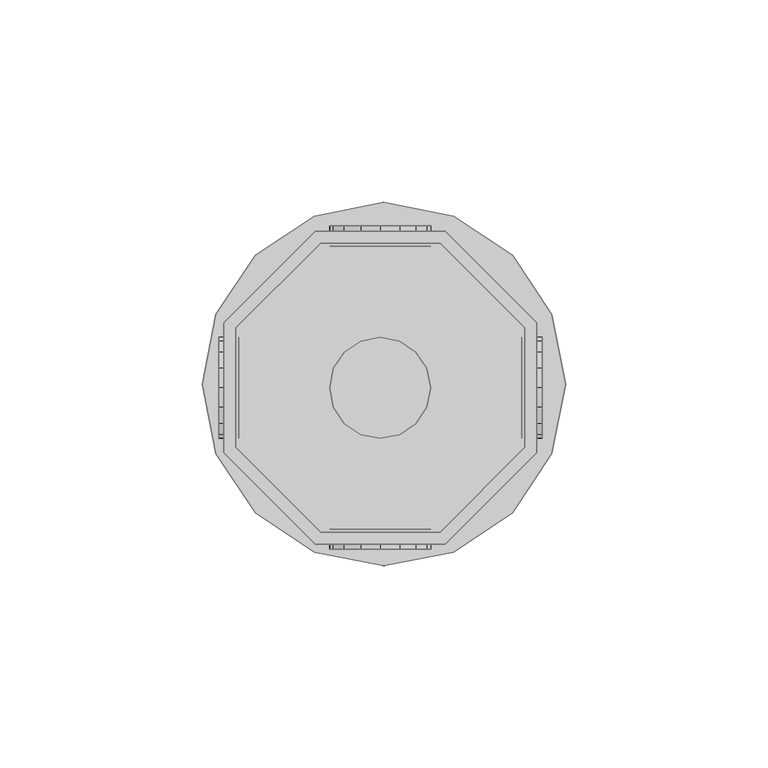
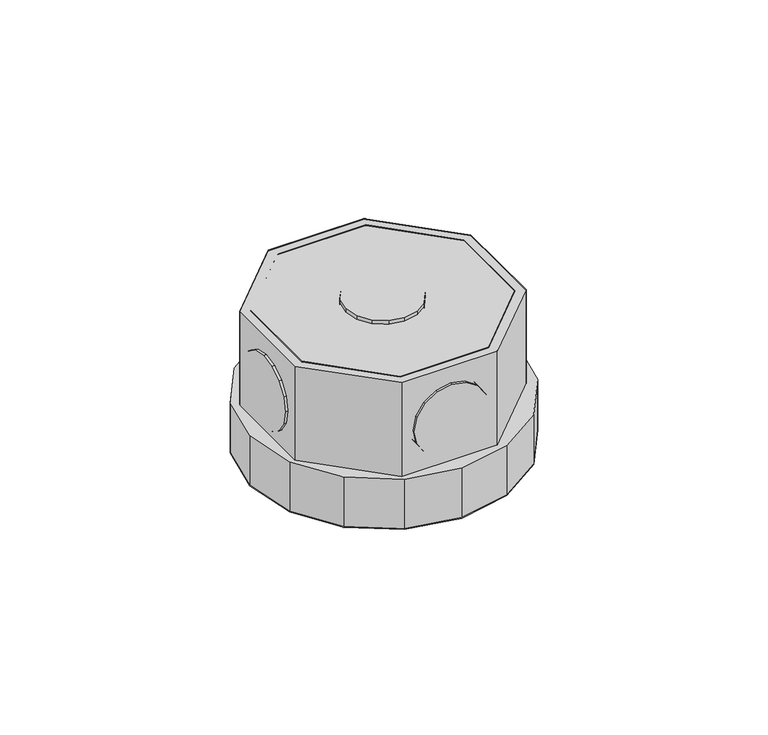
"""IFC4 building model written with IfcOpenShell, lengths in millimetres: light fixture geometry,  212446 :  212446."""

from ifc_helpers import new_model, si_unit, origin, place, context, project, spatial, triangles, source, transform, mapped, element, save


def light_fixture_320f5427(model_context):
    return source(origin(), model_context, "Body", "Tessellation", [
        triangles([(17976.6004028, 10112.1002106, 2924.5999741), (17976.6004028, 10082.4996918, 2975.400071), (17976.6004028, 10082.4996918, 2924.5999741), (17976.6004028, 10112.1002106, 2975.400071), (18051.1005066, 10113.3001373, 2924.5999741), (18051.1005066, 10081.1997711, 2975.400071), (18051.1005066, 10081.1997711, 2924.5999741), (18051.1005066, 10113.3001373, 2975.400071), (17997.6002838, 10061.4998108, 2975.400071), (17997.6002838, 10061.4998108, 2924.5999741), (18028.3995667, 10135.9999146, 2924.5999741), (18028.3995667, 10135.9999146, 2975.400071), (18027.1996399, 10061.4998108, 2975.400071), (18027.1996399, 10061.4998108, 2924.5999741), (17996.3003632, 10135.9999146, 2924.5999741), (17996.3003632, 10135.9999146, 2975.400071), (18048.099527, 10082.4996918, 2975.400071), (18048.099527, 10082.4996918, 2924.5999741), (17973.5994232, 10113.3001373, 2924.5999741), (17973.5994232, 10113.3001373, 2975.400071), (18048.099527, 10112.1002106, 2924.5999741), (18048.099527, 10112.1002106, 2975.400071), (17973.5994232, 10081.1997711, 2975.400071), (17973.5994232, 10081.1997711, 2924.5999741), (18027.1996399, 10133.0000977, 2924.5999741), (18027.1996399, 10133.0000977, 2975.400071), (17996.3003632, 10058.4999939, 2975.400071), (17996.3003632, 10058.4999939, 2924.5999741), (18028.3995667, 10058.4999939, 2975.400071), (17997.6002838, 10133.0000977, 2975.400071), (17997.6002838, 10133.0000977, 2924.5999741), (18028.3995667, 10058.4999939, 2924.5999741), (18027.1996399, 10061.4998108, 2972.3999634), (18048.099527, 10082.4996918, 2972.3999634), (18048.099527, 10112.1002106, 2972.3999634), (18027.1996399, 10133.0000977, 2972.3999634), (17997.6002838, 10133.0000977, 2972.3999634), (17976.6004028, 10112.1002106, 2972.3999634), (17976.6004028, 10082.4996918, 2972.3999634), (17997.6002838, 10061.4998108, 2972.3999634), (17996.3003632, 10058.4999939, 2942.4000504), (17973.5994232, 10081.1997711, 2942.4000504), (17973.5994232, 10113.3001373, 2942.4000504), (17996.3003632, 10135.9999146, 2942.4000504), (18028.3995667, 10135.9999146, 2942.4000504), (18051.1005066, 10113.3001373, 2942.4000504), (18051.1005066, 10081.1997711, 2942.4000504), (18028.3995667, 10058.4999939, 2942.4000504), (18054.8002808, 10080.8997894, 2942.4000504), (18030.4994385, 10056.6001099, 2942.4000504), (18045.0997101, 10066.2995178, 2942.4000504), (18013.3004883, 10053.2003174, 2942.4000504), (17996.0003815, 10056.6001099, 2942.4000504), (17981.4001099, 10066.2995178, 2942.4000504), (17971.6995392, 10080.8997894, 2942.4000504), (17968.2997467, 10098.1998962, 2942.4000504), (17971.6995392, 10115.4000092, 2942.4000504), (17996.0003815, 10139.6996887, 2942.4000504), (17981.4001099, 10130.0002808, 2942.4000504), (18058.3000671, 10098.1998962, 2942.4000504), (18054.8002808, 10115.4000092, 2942.4000504), (18045.0997101, 10130.0002808, 2942.4000504), (18030.4994385, 10139.6996887, 2942.4000504), (18013.3004883, 10143.1994751, 2942.4000504), (18030.4994385, 10056.6001099, 2924.5999741), (18054.8002808, 10080.8997894, 2924.5999741), (18045.0997101, 10066.2995178, 2924.5999741), (18013.3004883, 10053.2003174, 2924.5999741), (17996.0003815, 10056.6001099, 2924.5999741), (17981.4001099, 10066.2995178, 2924.5999741), (17971.6995392, 10080.8997894, 2924.5999741), (17968.2997467, 10098.1998962, 2924.5999741), (17971.6995392, 10115.4000092, 2924.5999741), (17996.0003815, 10139.6996887, 2924.5999741), (17981.4001099, 10130.0002808, 2924.5999741), (18058.3000671, 10098.1998962, 2924.5999741), (18054.8002808, 10115.4000092, 2924.5999741), (18045.0997101, 10130.0002808, 2924.5999741), (18030.4994385, 10139.6996887, 2924.5999741), (18013.3004883, 10143.1994751, 2924.5999741), (17972.3994965, 10085.6994965, 2952.6000092), (17972.3994965, 10092.5002441, 2945.9001274), (17972.3994965, 10088.4004944, 2948.5999626), (17972.3994965, 10084.7995514, 2957.4000069), (17972.3994965, 10097.2999512, 2944.8998978), (17972.3994965, 10085.6994965, 2962.2000046), (17972.3994965, 10102.0996582, 2945.9001274), (17972.3994965, 10088.4004944, 2966.2000511), (17972.3994965, 10106.1005768, 2948.5999626), (17972.3994965, 10092.5002441, 2968.8998863), (17972.3994965, 10108.800412, 2952.6000092), (17972.3994965, 10097.2999512, 2969.900116), (17972.3994965, 10109.800351, 2957.4000069), (17972.3994965, 10102.0996582, 2968.8998863), (17972.3994965, 10108.800412, 2962.2000046), (17972.3994965, 10106.1005768, 2966.2000511), (17977.400354, 10092.5002441, 2945.9001274), (17977.400354, 10085.6994965, 2952.6000092), (17977.400354, 10088.4004944, 2948.5999626), (17977.400354, 10097.2999512, 2944.8998978), (17977.400354, 10084.7995514, 2957.4000069), (17977.400354, 10102.0996582, 2945.9001274), (17977.400354, 10085.6994965, 2962.2000046), (17977.400354, 10106.1005768, 2948.5999626), (17977.400354, 10088.4004944, 2966.2000511), (17977.400354, 10092.5002441, 2968.8998863), (17977.400354, 10108.800412, 2952.6000092), (17977.400354, 10097.2999512, 2969.900116), (17977.400354, 10109.800351, 2957.4000069), (17977.400354, 10102.0996582, 2968.8998863), (17977.400354, 10108.800412, 2962.2000046), (17977.400354, 10106.1005768, 2966.2000511), (18047.3995697, 10085.6994965, 2952.6000092), (18047.3995697, 10092.5002441, 2945.9001274), (18047.3995697, 10088.4004944, 2948.5999626), (18047.3995697, 10084.7995514, 2957.4000069), (18047.3995697, 10097.2999512, 2944.8998978), (18047.3995697, 10085.6994965, 2962.2000046), (18047.3995697, 10102.0996582, 2945.9001274), (18047.3995697, 10088.4004944, 2966.2000511), (18047.3995697, 10106.1005768, 2948.5999626), (18047.3995697, 10092.5002441, 2968.8998863), (18047.3995697, 10108.800412, 2952.6000092), (18047.3995697, 10097.2999512, 2969.900116), (18047.3995697, 10109.800351, 2957.4000069), (18047.3995697, 10102.0996582, 2968.8998863), (18047.3995697, 10108.800412, 2962.2000046), (18047.3995697, 10106.1005768, 2966.2000511), (18052.4004272, 10092.5002441, 2945.9001274), (18052.4004272, 10085.6994965, 2952.6000092), (18052.4004272, 10088.4004944, 2948.5999626), (18052.4004272, 10097.2999512, 2944.8998978), (18052.4004272, 10084.7995514, 2957.4000069), (18052.4004272, 10102.0996582, 2945.9001274), (18052.4004272, 10085.6994965, 2962.2000046), (18052.4004272, 10106.1005768, 2948.5999626), (18052.4004272, 10088.4004944, 2966.2000511), (18052.4004272, 10092.5002441, 2968.8998863), (18052.4004272, 10108.800412, 2952.6000092), (18052.4004272, 10097.2999512, 2969.900116), (18052.4004272, 10109.800351, 2957.4000069), (18052.4004272, 10102.0996582, 2968.8998863), (18052.4004272, 10108.800412, 2962.2000046), (18052.4004272, 10106.1005768, 2966.2000511), (18017.2002502, 10062.299762, 2945.9001274), (18023.8998413, 10062.299762, 2952.6000092), (18021.2000061, 10062.299762, 2948.5999626), (18012.4005432, 10062.299762, 2944.8998978), (18024.8997803, 10062.299762, 2957.4000069), (18007.5996735, 10062.299762, 2945.9001274), (18023.8998413, 10062.299762, 2962.2000046), (18003.4999237, 10062.299762, 2948.5999626), (18021.2000061, 10062.299762, 2966.2000511), (18017.2002502, 10062.299762, 2968.8998863), (18000.8000885, 10062.299762, 2952.6000092), (18012.4005432, 10062.299762, 2969.900116), (17999.9001434, 10062.299762, 2957.4000069), (18007.5996735, 10062.299762, 2968.8998863), (18000.8000885, 10062.299762, 2962.2000046), (18003.4999237, 10062.299762, 2966.2000511), (18023.8998413, 10057.3000671, 2952.6000092), (18017.2002502, 10057.3000671, 2945.9001274), (18021.2000061, 10057.3000671, 2948.5999626), (18024.8997803, 10057.3000671, 2957.4000069), (18012.4005432, 10057.3000671, 2944.8998978), (18023.8998413, 10057.3000671, 2962.2000046), (18007.5996735, 10057.3000671, 2945.9001274), (18021.2000061, 10057.3000671, 2966.2000511), (18003.4999237, 10057.3000671, 2948.5999626), (18017.2002502, 10057.3000671, 2968.8998863), (18000.8000885, 10057.3000671, 2952.6000092), (18012.4005432, 10057.3000671, 2969.900116), (17999.9001434, 10057.3000671, 2957.4000069), (18007.5996735, 10057.3000671, 2968.8998863), (18000.8000885, 10057.3000671, 2962.2000046), (18003.4999237, 10057.3000671, 2966.2000511), (18017.2002502, 10137.2998352, 2945.9001274), (18023.8998413, 10137.2998352, 2952.6000092), (18021.2000061, 10137.2998352, 2948.5999626), (18012.4005432, 10137.2998352, 2944.8998978), (18024.8997803, 10137.2998352, 2957.4000069), (18007.5996735, 10137.2998352, 2945.9001274), (18023.8998413, 10137.2998352, 2962.2000046), (18003.4999237, 10137.2998352, 2948.5999626), (18021.2000061, 10137.2998352, 2966.2000511), (18017.2002502, 10137.2998352, 2968.8998863), (18000.8000885, 10137.2998352, 2952.6000092), (18012.4005432, 10137.2998352, 2969.900116), (17999.9001434, 10137.2998352, 2957.4000069), (18007.5996735, 10137.2998352, 2968.8998863), (18000.8000885, 10137.2998352, 2962.2000046), (18003.4999237, 10137.2998352, 2966.2000511), (18023.8998413, 10132.3001404, 2952.6000092), (18017.2002502, 10132.3001404, 2945.9001274), (18021.2000061, 10132.3001404, 2948.5999626), (18024.8997803, 10132.3001404, 2957.4000069), (18012.4005432, 10132.3001404, 2944.8998978), (18023.8998413, 10132.3001404, 2962.2000046), (18007.5996735, 10132.3001404, 2945.9001274), (18021.2000061, 10132.3001404, 2966.2000511), (18003.4999237, 10132.3001404, 2948.5999626), (18017.2002502, 10132.3001404, 2968.8998863), (18000.8000885, 10132.3001404, 2952.6000092), (18012.4005432, 10132.3001404, 2969.900116), (17999.9001434, 10132.3001404, 2957.4000069), (18007.5996735, 10132.3001404, 2968.8998863), (18000.8000885, 10132.3001404, 2962.2000046), (18003.4999237, 10132.3001404, 2966.2000511), (18023.8998413, 10092.5002441, 2976.9999733), (18017.2002502, 10085.6994965, 2976.9999733), (18021.2000061, 10088.4004944, 2976.9999733), (18012.4005432, 10084.7995514, 2976.9999733), (18024.8997803, 10097.2999512, 2976.9999733), (18007.5996735, 10085.6994965, 2976.9999733), (18023.8998413, 10102.0996582, 2976.9999733), (18003.4999237, 10088.4004944, 2976.9999733), (18021.2000061, 10106.1005768, 2976.9999733), (18000.8000885, 10092.5002441, 2976.9999733), (18017.2002502, 10108.800412, 2976.9999733), (17999.9001434, 10097.2999512, 2976.9999733), (18012.4005432, 10109.800351, 2976.9999733), (18000.8000885, 10102.0996582, 2976.9999733), (18007.5996735, 10108.800412, 2976.9999733), (18003.4999237, 10106.1005768, 2976.9999733), (18017.2002502, 10085.6994965, 2971.9999878), (18023.8998413, 10092.5002441, 2971.9999878), (18021.2000061, 10088.4004944, 2971.9999878), (18012.4005432, 10084.7995514, 2971.9999878), (18024.8997803, 10097.2999512, 2971.9999878), (18007.5996735, 10085.6994965, 2971.9999878), (18023.8998413, 10102.0996582, 2971.9999878), (18003.4999237, 10088.4004944, 2971.9999878), (18021.2000061, 10106.1005768, 2971.9999878), (18000.8000885, 10092.5002441, 2971.9999878), (18017.2002502, 10108.800412, 2971.9999878), (17999.9001434, 10097.2999512, 2971.9999878), (18012.4005432, 10109.800351, 2971.9999878), (18000.8000885, 10102.0996582, 2971.9999878), (18007.5996735, 10108.800412, 2971.9999878), (18003.4999237, 10106.1005768, 2971.9999878)], [[1, 2, 3], [2, 1, 4], [5, 6, 7], [6, 5, 8], [3, 9, 10], [9, 3, 2], [11, 8, 5], [8, 11, 12], [10, 13, 14], [13, 10, 9], [15, 12, 11], [12, 15, 16], [14, 17, 18], [17, 14, 13], [19, 16, 15], [16, 19, 20], [17, 21, 18], [21, 17, 22], [23, 19, 24], [19, 23, 20], [22, 25, 21], [25, 22, 26], [27, 24, 28], [24, 27, 23], [6, 13, 29], [29, 13, 27], [27, 13, 9], [27, 9, 23], [23, 9, 2], [23, 2, 4], [23, 4, 20], [20, 4, 30], [8, 17, 6], [6, 17, 13], [17, 8, 22], [12, 22, 8], [22, 12, 26], [30, 26, 12], [16, 30, 12], [20, 30, 16], [30, 1, 31], [1, 30, 4], [6, 32, 7], [32, 6, 29], [32, 14, 7], [28, 14, 32], [14, 28, 10], [24, 10, 28], [10, 24, 3], [1, 3, 24], [19, 1, 24], [31, 1, 19], [7, 18, 5], [14, 18, 7], [5, 18, 21], [5, 21, 11], [11, 21, 25], [11, 25, 31], [11, 31, 15], [15, 31, 19], [26, 31, 25], [31, 26, 30], [29, 28, 32], [28, 29, 27], [17, 33, 34], [33, 17, 13], [35, 17, 34], [17, 35, 22], [36, 22, 35], [22, 36, 26], [37, 26, 36], [26, 37, 30], [38, 30, 37], [30, 38, 4], [2, 38, 39], [38, 2, 4], [17, 9, 13], [9, 17, 22], [9, 22, 2], [2, 22, 26], [2, 26, 4], [4, 26, 30], [13, 40, 33], [40, 13, 9], [40, 34, 33], [35, 34, 40], [35, 40, 39], [35, 39, 36], [36, 39, 38], [36, 38, 37], [9, 39, 40], [39, 9, 2], [24, 41, 28], [41, 24, 42], [19, 42, 24], [42, 19, 43], [44, 19, 15], [19, 44, 43], [45, 15, 11], [15, 45, 44], [46, 11, 5], [11, 46, 45], [47, 5, 7], [5, 47, 46], [32, 47, 7], [47, 32, 48], [28, 48, 32], [48, 28, 41], [49, 50, 51], [48, 50, 49], [50, 48, 52], [41, 52, 48], [52, 41, 53], [53, 41, 54], [42, 54, 41], [54, 42, 55], [55, 42, 43], [55, 43, 56], [56, 43, 57], [57, 43, 44], [57, 44, 58], [57, 58, 59], [47, 49, 60], [49, 47, 48], [47, 60, 46], [61, 46, 60], [46, 61, 62], [46, 62, 45], [45, 62, 63], [44, 45, 63], [44, 63, 64], [44, 64, 58], [65, 66, 67], [66, 65, 32], [68, 32, 65], [32, 68, 28], [28, 68, 69], [70, 28, 69], [28, 70, 24], [71, 24, 70], [19, 24, 71], [19, 71, 72], [73, 19, 72], [19, 73, 15], [74, 15, 73], [74, 73, 75], [76, 66, 7], [32, 7, 66], [5, 76, 7], [76, 5, 77], [77, 5, 78], [11, 78, 5], [78, 11, 79], [79, 11, 15], [79, 15, 80], [80, 15, 74], [57, 75, 73], [75, 57, 59], [56, 73, 72], [73, 56, 57], [55, 72, 71], [72, 55, 56], [54, 71, 70], [71, 54, 55], [53, 70, 69], [70, 53, 54], [52, 69, 68], [69, 52, 53], [50, 68, 65], [68, 50, 52], [51, 65, 67], [65, 51, 50], [66, 51, 67], [51, 66, 49], [76, 49, 66], [49, 76, 60], [77, 60, 76], [60, 77, 61], [78, 61, 77], [61, 78, 62], [79, 62, 78], [62, 79, 63], [80, 63, 79], [63, 80, 64], [75, 58, 74], [58, 75, 59], [74, 64, 80], [64, 74, 58], [81, 82, 83], [82, 81, 84], [85, 82, 84], [85, 84, 86], [87, 85, 86], [87, 86, 88], [87, 88, 89], [89, 88, 90], [89, 90, 91], [91, 90, 92], [91, 92, 93], [93, 92, 94], [93, 94, 95], [95, 94, 96], [97, 98, 99], [98, 97, 100], [101, 98, 100], [101, 100, 102], [103, 101, 102], [103, 102, 104], [103, 104, 105], [105, 104, 106], [106, 104, 107], [106, 107, 108], [108, 107, 109], [108, 109, 110], [110, 109, 111], [110, 111, 112], [87, 104, 102], [104, 87, 89], [85, 102, 100], [102, 85, 87], [82, 100, 97], [100, 82, 85], [83, 97, 99], [97, 83, 82], [98, 83, 99], [83, 98, 81], [101, 81, 98], [81, 101, 84], [103, 84, 101], [84, 103, 86], [105, 86, 103], [86, 105, 88], [106, 88, 105], [88, 106, 90], [108, 90, 106], [90, 108, 92], [110, 92, 108], [92, 110, 94], [112, 94, 110], [94, 112, 96], [95, 112, 111], [112, 95, 96], [93, 111, 109], [111, 93, 95], [89, 107, 104], [107, 89, 91], [91, 109, 107], [109, 91, 93], [113, 114, 115], [114, 113, 116], [117, 114, 116], [117, 116, 118], [119, 117, 118], [119, 118, 120], [119, 120, 121], [121, 120, 122], [121, 122, 123], [123, 122, 124], [123, 124, 125], [125, 124, 126], [125, 126, 127], [127, 126, 128], [129, 130, 131], [130, 129, 132], [133, 130, 132], [133, 132, 134], [135, 133, 134], [135, 134, 136], [135, 136, 137], [137, 136, 138], [138, 136, 139], [138, 139, 140], [140, 139, 141], [140, 141, 142], [142, 141, 143], [142, 143, 144], [119, 136, 134], [136, 119, 121], [117, 134, 132], [134, 117, 119], [114, 132, 129], [132, 114, 117], [115, 129, 131], [129, 115, 114], [130, 115, 131], [115, 130, 113], [133, 113, 130], [113, 133, 116], [135, 116, 133], [116, 135, 118], [137, 118, 135], [118, 137, 120], [138, 120, 137], [120, 138, 122], [140, 122, 138], [122, 140, 124], [142, 124, 140], [124, 142, 126], [144, 126, 142], [126, 144, 128], [127, 144, 143], [144, 127, 128], [125, 143, 141], [143, 125, 127], [121, 139, 136], [139, 121, 123], [123, 141, 139], [141, 123, 125], [145, 146, 147], [146, 145, 148], [149, 146, 148], [149, 148, 150], [151, 149, 150], [151, 150, 152], [151, 152, 153], [153, 152, 154], [154, 152, 155], [154, 155, 156], [156, 155, 157], [156, 157, 158], [158, 157, 159], [158, 159, 160], [161, 162, 163], [162, 161, 164], [165, 162, 164], [165, 164, 166], [167, 165, 166], [167, 166, 168], [169, 167, 168], [169, 168, 170], [169, 170, 171], [171, 170, 172], [171, 172, 173], [173, 172, 174], [173, 174, 175], [175, 174, 176], [158, 176, 174], [176, 158, 160], [156, 174, 172], [174, 156, 158], [154, 172, 170], [172, 154, 156], [153, 170, 168], [170, 153, 154], [151, 168, 166], [168, 151, 153], [149, 166, 164], [166, 149, 151], [146, 164, 161], [164, 146, 149], [147, 161, 163], [161, 147, 146], [162, 147, 163], [147, 162, 145], [165, 145, 162], [145, 165, 148], [167, 148, 165], [148, 167, 150], [169, 150, 167], [150, 169, 152], [171, 152, 169], [152, 171, 155], [173, 155, 171], [155, 173, 157], [176, 159, 175], [159, 176, 160], [175, 157, 173], [157, 175, 159], [177, 178, 179], [178, 177, 180], [181, 178, 180], [181, 180, 182], [183, 181, 182], [183, 182, 184], [183, 184, 185], [185, 184, 186], [186, 184, 187], [186, 187, 188], [188, 187, 189], [188, 189, 190], [190, 189, 191], [190, 191, 192], [193, 194, 195], [194, 193, 196], [197, 194, 196], [197, 196, 198], [199, 197, 198], [199, 198, 200], [201, 199, 200], [201, 200, 202], [201, 202, 203], [203, 202, 204], [203, 204, 205], [205, 204, 206], [205, 206, 207], [207, 206, 208], [190, 208, 206], [208, 190, 192], [188, 206, 204], [206, 188, 190], [186, 204, 202], [204, 186, 188], [185, 202, 200], [202, 185, 186], [183, 200, 198], [200, 183, 185], [181, 198, 196], [198, 181, 183], [178, 196, 193], [196, 178, 181], [179, 193, 195], [193, 179, 178], [194, 179, 195], [179, 194, 177], [197, 177, 194], [177, 197, 180], [199, 180, 197], [180, 199, 182], [201, 182, 199], [182, 201, 184], [203, 184, 201], [184, 203, 187], [205, 187, 203], [187, 205, 189], [208, 191, 207], [191, 208, 192], [207, 189, 205], [189, 207, 191], [209, 210, 211], [212, 210, 209], [212, 209, 213], [214, 212, 213], [214, 213, 215], [216, 214, 215], [216, 215, 217], [216, 217, 218], [218, 217, 219], [218, 219, 220], [220, 219, 221], [220, 221, 222], [222, 221, 223], [222, 223, 224], [225, 226, 227], [226, 225, 228], [229, 226, 228], [229, 228, 230], [231, 229, 230], [231, 230, 232], [231, 232, 233], [233, 232, 234], [233, 234, 235], [235, 234, 236], [235, 236, 237], [237, 236, 238], [237, 238, 239], [239, 238, 240], [222, 240, 238], [240, 222, 224], [220, 238, 236], [238, 220, 222], [218, 236, 234], [236, 218, 220], [216, 234, 232], [234, 216, 218], [214, 232, 230], [232, 214, 216], [212, 230, 228], [230, 212, 214], [210, 228, 225], [228, 210, 212], [211, 225, 227], [225, 211, 210], [226, 211, 227], [211, 226, 209], [229, 209, 226], [209, 229, 213], [231, 213, 229], [213, 231, 215], [233, 215, 231], [215, 233, 217], [235, 217, 233], [217, 235, 219], [237, 219, 235], [219, 237, 221], [240, 223, 239], [223, 240, 224], [239, 221, 237], [221, 239, 223]], closed=False),
    ])


if __name__ == "__main__":
    model = new_model("IFC4")
    model_context = context("Model", 3, world=origin())
    ifc_project = project(units=[si_unit("LENGTHUNIT", "METRE", prefix="MILLI")], contexts=[model_context])
    site = spatial("IfcSite", under=ifc_project)
    building = spatial("IfcBuilding", under=site)
    placement = place(None, origin())
    light_fixture_shape = light_fixture_320f5427(model_context)
    element("IfcLightFixture", 1, ObjectType=" 212446 :  212446", at=placement, inside=building, context=model_context, shape_type="MappedRepresentation", body=[
        mapped(light_fixture_shape, transform((0.0, 0.0, 0.0), x_axis=(1.0, 0.0, 0.0), y_axis=(0.0, 1.0, 0.0), z_axis=(0.0, 0.0, 1.0))),
    ])
    save(model, "model.ifc")
